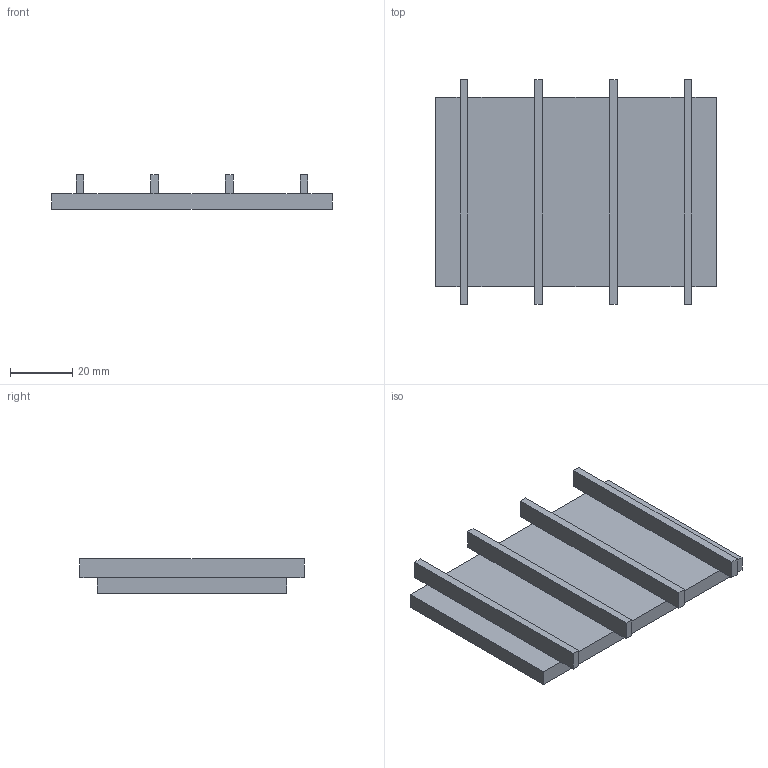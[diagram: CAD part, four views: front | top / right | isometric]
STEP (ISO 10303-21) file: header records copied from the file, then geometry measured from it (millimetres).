
FILE_DESCRIPTION(('Mechanical CAD reference from nasji.com'),'2;1');
FILE_NAME('NASJI.step','',(''),(''),'','NASJI distribution','');
FILE_SCHEMA(('AUTOMOTIVE_DESIGN { 1 0 10303 214 1 1 1 1 }'));
Length unit declared in the file: millimetre
Products named in the file (1): Open CASCADE STEP translator 7.8 117
Bounding box: 90 x 72 x 11.1 mm (x, y, z)
Volume: 31752 mm3; surface area: 16311.6 mm2
Topology: 1 solids, 1 shells, 38 faces, 92 edges, 56 vertices
Faces by surface type: plane 38
Entity records: 2274 total; most frequent: CARTESIAN_POINT 371, DIRECTION 354, LINE 276, VECTOR 276, ORIENTED_EDGE 184, PCURVE 184, DEFINITIONAL_REPRESENTATION 184, EDGE_CURVE 92
